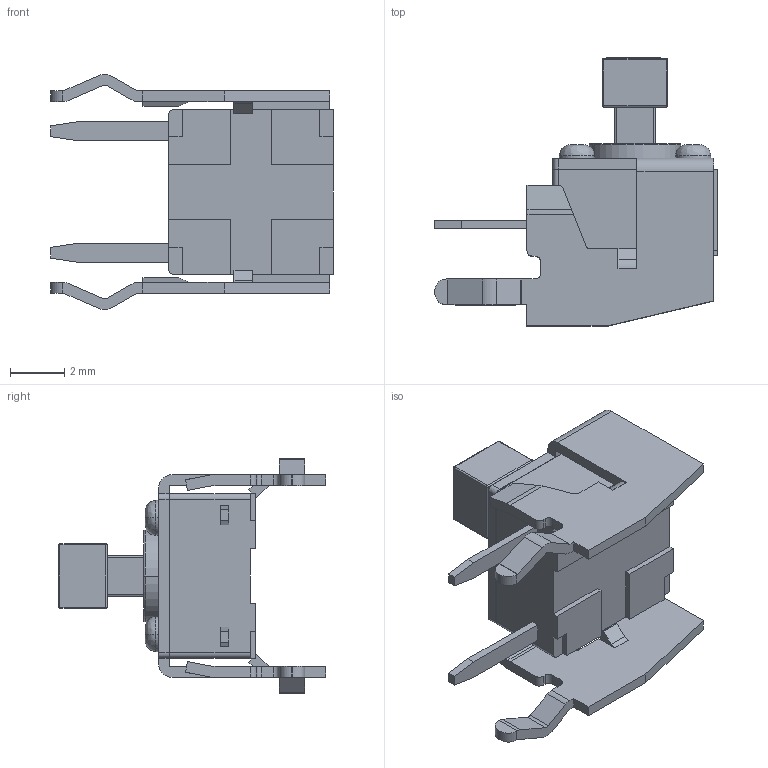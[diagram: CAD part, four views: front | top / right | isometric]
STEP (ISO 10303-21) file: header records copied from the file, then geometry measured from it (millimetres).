
FILE_DESCRIPTION((''),'2;1');
FILE_NAME('ASM0001_ASM','2024-01-12T',('WYH'),(''),'PRO/ENGINEER BY PARAMETRIC TECHNOLOGY CORPORATION, 2013040','PRO/ENGINEER BY PARAMETRIC TECHNOLOGY CORPORATION, 2013040','');
FILE_SCHEMA(('CONFIG_CONTROL_DESIGN'));
Length unit declared in the file: millimetre
Products named in the file (1): ASM0001_ASM
Bounding box: 10.47 x 9.92 x 8.7 mm (x, y, z)
Volume: 179.6 mm3; surface area: 444.9 mm2
Topology: 1 solids, 1 shells, 268 faces, 712 edges, 462 vertices
Faces by surface type: plane 172, cylinder 78, bspline 8, sphere 8, torus 2
Entity records: 8492 total; most frequent: CARTESIAN_POINT 1684, ORIENTED_EDGE 1424, DIRECTION 1392, EDGE_CURVE 712, VECTOR 536, LINE 536, VERTEX_POINT 462, AXIS2_PLACEMENT_3D 428
